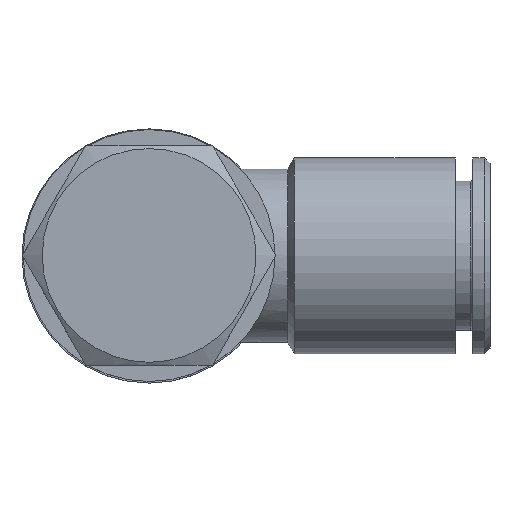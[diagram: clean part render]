
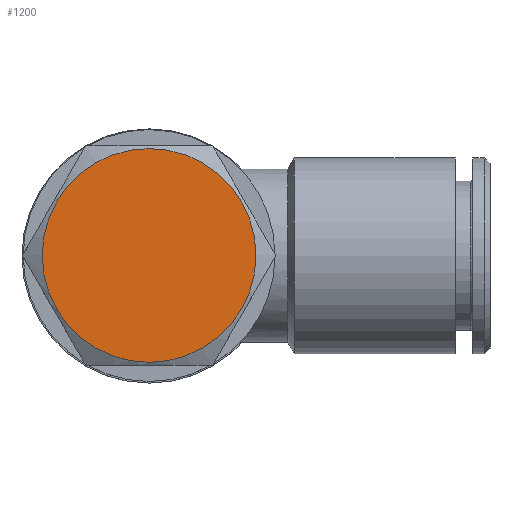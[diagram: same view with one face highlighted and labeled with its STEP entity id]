
A CAD part, top view. The second image highlights one B-rep face of the part: STEP entity #1200.
In plain terms, the highlighted planar face has unit normal (0, 0, 1).
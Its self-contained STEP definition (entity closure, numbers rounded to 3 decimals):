
#1200=ADVANCED_FACE('', (#1210), #1220, .T.);
#5240=AXIS2_PLACEMENT_3D('Ax2Pl3d', #5250, #5260, #5270);
#5600=AXIS2_PLACEMENT_3D('Ax2Pl3d', #5610, #5620, #5630);
#5250=CARTESIAN_POINT('HicPkt', (14.955,18.693,
44.228));
#52240=CARTESIAN_POINT('', (14.955,9.443,44.228));
#5610=CARTESIAN_POINT('HicPkt', (24.205,18.693,
44.228));
#53250=CIRCLE('Circle', #5240, 9.25);
#5260=DIRECTION('Axis', (0.,0.,-1.));
#5270=DIRECTION('RefDirection', (-1.,-0.,0.));
#5620=DIRECTION('Axis', (0.,0.,1.));
#5630=DIRECTION('RefDirection', (1.,0.,-0.));
#58710=EDGE_CURVE('', #58720, #58720, #53250, .T.);
#61690=EDGE_LOOP('Edge_loop', (#61700));
#1210=FACE_OUTER_BOUND('Face_outer_bound', #61690, .T.);
#61700=ORIENTED_EDGE('', *, *, #58710, .F.);
#1220=PLANE('Plane', #5600);
#58720=VERTEX_POINT('', #52240);
